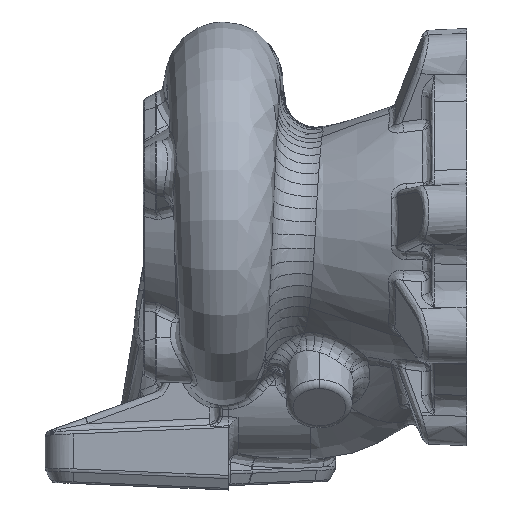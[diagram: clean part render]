
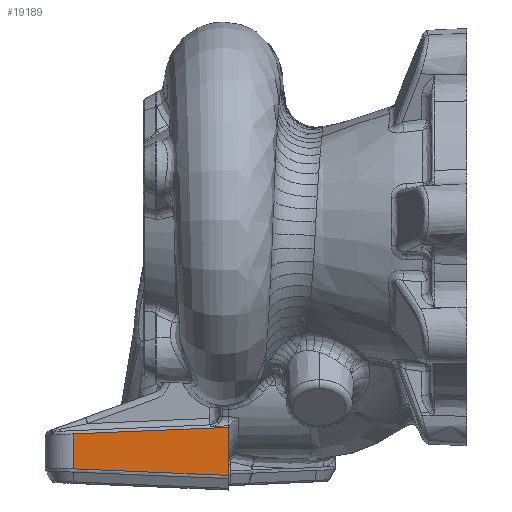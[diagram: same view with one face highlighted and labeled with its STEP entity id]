
A CAD part, front view. The second image highlights one B-rep face of the part: STEP entity #19189.
In plain terms, the highlighted planar face has unit normal (0.035, 0.999, 0).
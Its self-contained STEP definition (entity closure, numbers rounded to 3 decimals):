
#1322=LINE('',#164726,#1588);
#1323=LINE('',#164736,#1589);
#1588=VECTOR('',#20627,10.);
#1589=VECTOR('',#20628,10.);
#2615=FACE_OUTER_BOUND('',#3640,.T.);
#3640=EDGE_LOOP('',(#17812,#17813,#17814,#17815,#17816));
#6377=B_SPLINE_CURVE_WITH_KNOTS('',3,(#164700,#164701,#164702,#164703,#164704,
#164705,#164706),.UNSPECIFIED.,.F.,.F.,(4,3,4),(-1.992,-1.,-0.985),
 .UNSPECIFIED.);
#6380=B_SPLINE_CURVE_WITH_KNOTS('',3,(#164721,#164722,#164723,#164724),
 .UNSPECIFIED.,.F.,.F.,(4,4),(0.048,0.999),
 .UNSPECIFIED.);
#6381=B_SPLINE_CURVE_WITH_KNOTS('',3,(#164728,#164729,#164730,#164731,#164732,
#164733,#164734,#164735),.UNSPECIFIED.,.F.,.F.,(4,2,2,4),(-1.,
-1.,-1.,-0.048),.UNSPECIFIED.);
#8547=VERTEX_POINT('',#164686);
#8548=VERTEX_POINT('',#164699);
#8549=VERTEX_POINT('',#164720);
#8550=VERTEX_POINT('',#164725);
#8551=VERTEX_POINT('',#164727);
#11683=EDGE_CURVE('',#8547,#8548,#6377,.T.);
#11686=EDGE_CURVE('',#8548,#8549,#6380,.T.);
#11687=EDGE_CURVE('',#8547,#8550,#1322,.T.);
#11688=EDGE_CURVE('',#8551,#8550,#6381,.T.);
#11689=EDGE_CURVE('',#8551,#8549,#1323,.T.);
#17812=ORIENTED_EDGE('',*,*,#11686,.F.);
#17813=ORIENTED_EDGE('',*,*,#11683,.F.);
#17814=ORIENTED_EDGE('',*,*,#11687,.T.);
#17815=ORIENTED_EDGE('',*,*,#11688,.F.);
#17816=ORIENTED_EDGE('',*,*,#11689,.T.);
#18218=PLANE('',#19629);
#19189=ADVANCED_FACE('',(#2615),#18218,.F.);
#19629=AXIS2_PLACEMENT_3D('',#164719,#20625,#20626);
#20625=DIRECTION('center_axis',(-0.035,-0.999,
0.));
#20626=DIRECTION('ref_axis',(0.,0.,-1.));
#20627=DIRECTION('',(0.,0.,-1.));
#20628=DIRECTION('',(0.,0.,1.));
#164686=CARTESIAN_POINT('',(4.6,6.22,-60.711));
#164699=CARTESIAN_POINT('',(4.6,6.22,-58.507));
#164700=CARTESIAN_POINT('Ctrl Pts',(4.6,6.22,-60.711));
#164701=CARTESIAN_POINT('Ctrl Pts',(4.6,6.22,-59.98));
#164702=CARTESIAN_POINT('Ctrl Pts',(4.6,6.22,-59.249));
#164703=CARTESIAN_POINT('Ctrl Pts',(4.6,6.22,-58.519));
#164704=CARTESIAN_POINT('Ctrl Pts',(4.6,6.22,-58.515));
#164705=CARTESIAN_POINT('Ctrl Pts',(4.6,6.22,-58.511));
#164706=CARTESIAN_POINT('Ctrl Pts',(4.6,6.22,-58.507));
#164719=CARTESIAN_POINT('Origin',(4.871,6.211,-65.148));
#164720=CARTESIAN_POINT('',(-43.049,7.884,-60.51));
#164721=CARTESIAN_POINT('Ctrl Pts',(4.6,6.22,-58.507));
#164722=CARTESIAN_POINT('Ctrl Pts',(-11.271,6.774,
-59.176));
#164723=CARTESIAN_POINT('Ctrl Pts',(-27.144,7.329,
-59.844));
#164724=CARTESIAN_POINT('Ctrl Pts',(-43.049,7.884,
-60.51));
#164725=CARTESIAN_POINT('',(4.6,6.22,-73.265));
#164726=CARTESIAN_POINT('',(4.6,6.22,-71.458));
#164727=CARTESIAN_POINT('',(-43.049,7.884,-71.258));
#164728=CARTESIAN_POINT('Ctrl Pts',(-43.049,7.884,
-71.258));
#164729=CARTESIAN_POINT('Ctrl Pts',(-43.049,7.884,
-71.258));
#164730=CARTESIAN_POINT('Ctrl Pts',(-43.049,7.884,
-71.258));
#164731=CARTESIAN_POINT('Ctrl Pts',(-43.043,7.884,
-71.258));
#164732=CARTESIAN_POINT('Ctrl Pts',(-43.037,7.884,
-71.258));
#164733=CARTESIAN_POINT('Ctrl Pts',(-27.154,7.329,
-71.927));
#164734=CARTESIAN_POINT('Ctrl Pts',(-11.277,6.775,
-72.596));
#164735=CARTESIAN_POINT('Ctrl Pts',(4.6,6.22,-73.265));
#164736=CARTESIAN_POINT('',(-43.049,7.884,-71.258));
